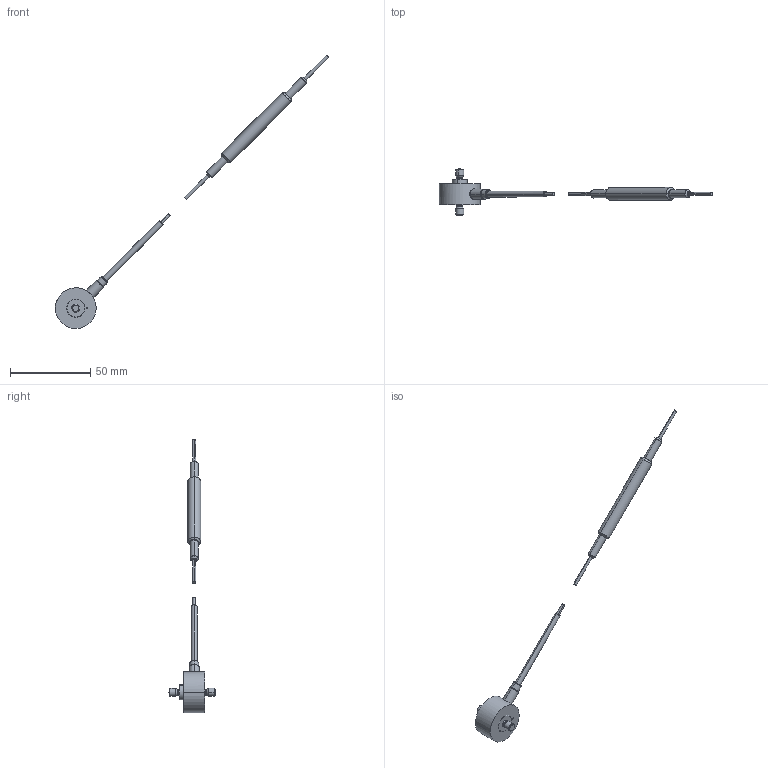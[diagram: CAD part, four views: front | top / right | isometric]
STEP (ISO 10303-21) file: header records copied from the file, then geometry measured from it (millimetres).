
FILE_DESCRIPTION(('STEP AP203'),'1');
FILE_NAME('C:/TPO v2/SharedFS/Outgoing/burster_8431-5200-v015_bh9i2vtiuv7zwv10twm37tldt.stp','2013-08-27T17:16:01',('TraceParts'),('TraceParts S.A.'),'XStep 1.0',' ',' ');
FILE_SCHEMA(('CONFIG_CONTROL_DESIGN'));
Length unit declared in the file: millimetre
Products named in the file (2): 1; 2
Bounding box: 170.01 x 28.76 x 170.01 mm (x, y, z)
Volume: 11373 mm3; surface area: 5454.9 mm2
Topology: 2 solids, 2 shells, 94 faces, 206 edges, 129 vertices
Faces by surface type: cylinder 36, cone 30, plane 15, torus 12, sphere 1
Entity records: 2831 total; most frequent: CARTESIAN_POINT 581, DIRECTION 514, ORIENTED_EDGE 412, AXIS2_PLACEMENT_3D 225, EDGE_CURVE 206, VERTEX_POINT 129, CIRCLE 129, EDGE_LOOP 107
